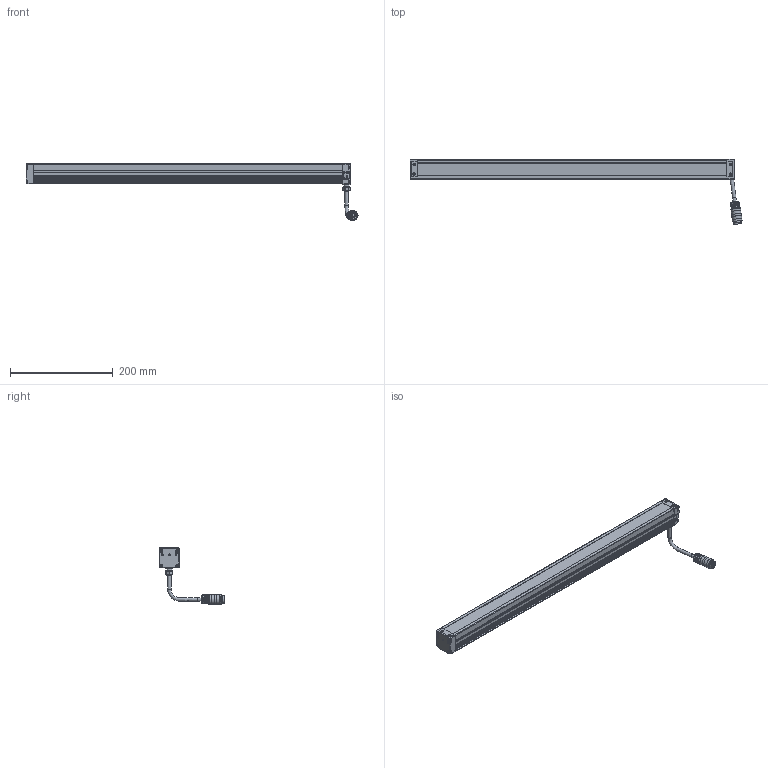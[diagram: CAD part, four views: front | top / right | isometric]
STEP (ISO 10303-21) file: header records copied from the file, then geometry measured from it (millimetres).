
FILE_DESCRIPTION(/* description */ (''),/* implementation_level */ '2;1');
FILE_NAME(/* name */ 'LBHP600',/* time_stamp */ '2025-01-14T08:06:34+01:00',/* author */ (''),/* organization */ ('iiM AG'),/* preprocessor_version */ 'ST-DEVELOPER v16.7',/* originating_system */ 'DEX',/* authorisation */ $);
FILE_SCHEMA (('AP203_CONFIGURATION_CONTROLLED_3D_DESIGN_OF_MECHANICAL_PARTS_AND_ASSEMBLIES_MIM_LF { 1 0 10303 203 3 1 4 }','AUTOMOTIVE_DESIGN {1 0 10303 214 3 1 1}'));
Length unit declared in the file: millimetre
Products named in the file (1): step export
Bounding box: 644.79 x 126.2 x 109.58 mm (x, y, z)
Volume: 814502.8 mm3; surface area: 183539.3 mm2
Topology: 2 solids, 2 shells, 882 faces, 2334 edges, 1476 vertices
Faces by surface type: cylinder 368, plane 336, cone 138, sphere 21, torus 16, bspline 3
Full cylindrical faces by diameter (mm): 1.001 x12, 2.693 x4, 3 x2, 3.1 x4, 3.242 x6, 3.8 x8, 5.6 x8, 6 x8, 6.8 x2, 8.008 x1, 10 x1, 11 x1, 12.9 x2, 14 x1, 15.015 x1, 16.016 x1, 17.518 x1, 18.519 x3, 18.619 x2
Entity records: 32582 total; most frequent: CARTESIAN_POINT 6224, ORIENTED_EDGE 4118, DIRECTION 4048, EDGE_CURVE 2059, AXIS2_PLACEMENT_3D 1523, VERTEX_POINT 1383, FACE_BOUND 1100, EDGE_LOOP 1086
